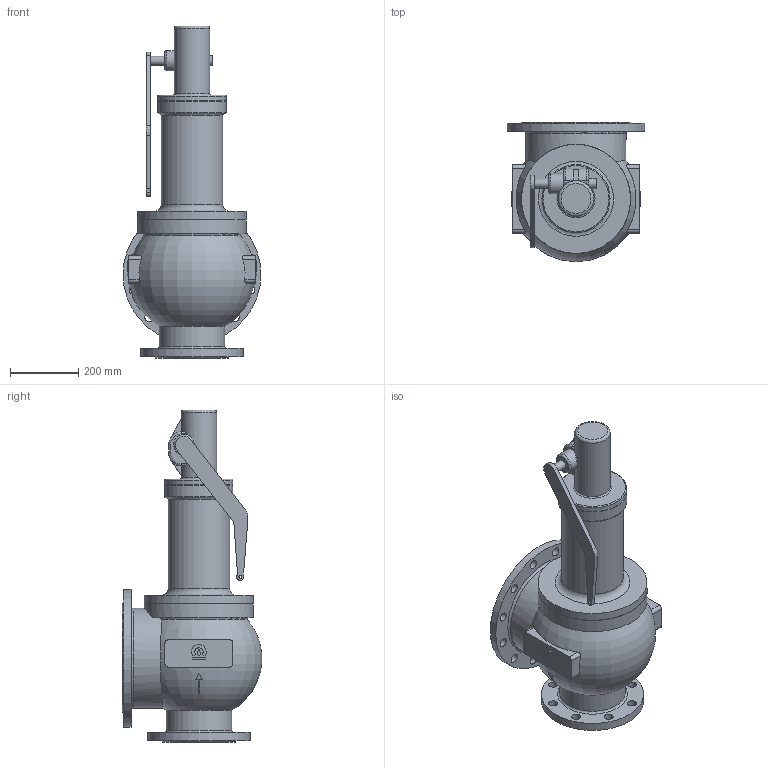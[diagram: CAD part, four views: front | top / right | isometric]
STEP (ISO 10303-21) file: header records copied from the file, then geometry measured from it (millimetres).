
FILE_DESCRIPTION(('STEP AP203'), '1');
FILE_NAME('Êëàïàí ïðåäîõðàíèòåëüíûé ïîëíîïîäüåìíûé SV2F DN150x250', '', ('UNSPECIFIED'), ('UNSPECIFIED'), 'ASCON STEP Converter 1.6', 'ASCON Math Kernel', '');
FILE_SCHEMA(('CONFIG_CONTROL_DESIGN'));
Length unit declared in the file: millimetre
Bounding box: 404.79 x 409.44 x 974 mm (x, y, z)
Volume: 31845843.6 mm3; surface area: 1558127.9 mm2
Topology: 1 solids, 1 shells, 167 faces, 434 edges, 292 vertices
Faces by surface type: plane 73, cylinder 73, torus 16, cone 4, sphere 1
Full cylindrical faces by diameter (mm): 8 x1, 26 x21, 30 x1, 60 x1, 104 x1, 150 x1, 180 x1, 180.414 x1, 192 x1, 200 x2, 250 x1, 293.591 x1, 300 x1, 302.496 x1, 320 x2, 404.79 x1
Entity records: 7864 total; most frequent: CARTESIAN_POINT 2403, DIRECTION 870, ORIENTED_EDGE 760, EDGE_CURVE 380, AXIS2_PLACEMENT_3D 365, VERTEX_POINT 291, EDGE_LOOP 285, FACE_BOUND 219
